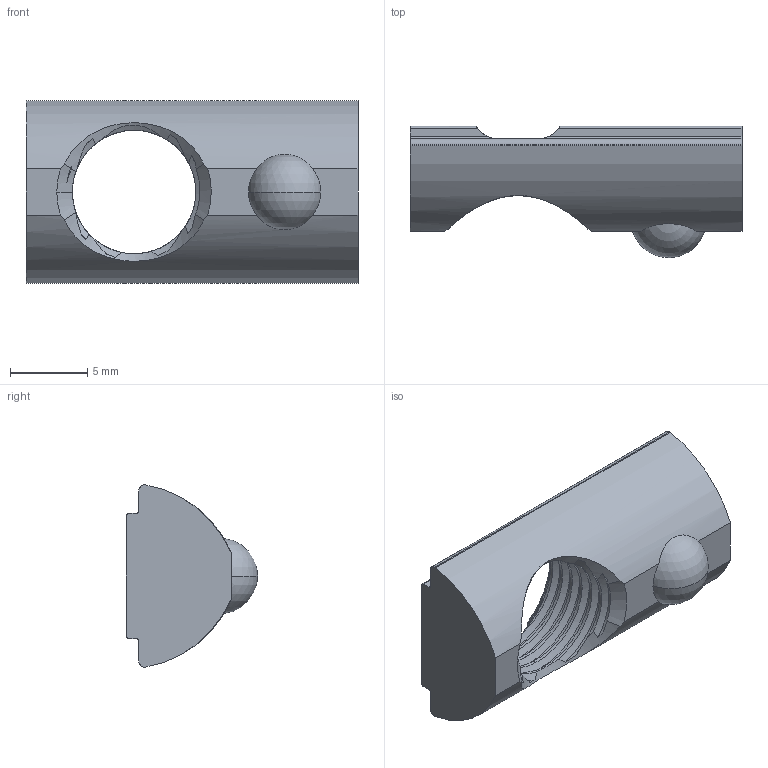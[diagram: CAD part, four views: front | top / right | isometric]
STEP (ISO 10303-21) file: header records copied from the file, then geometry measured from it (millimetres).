
FILE_DESCRIPTION (( 'STEP AP214' ), '1' );
FILE_NAME ('Spring Ball Loaded Nut - T-Slot - 30 Series - M8.STEP', '2024-10-08T00:22:53', ( '' ), ( '' ), 'SwSTEP 2.0', 'SolidWorks 2024', '' );
FILE_SCHEMA (( 'AUTOMOTIVE_DESIGN' ));
Length unit declared in the file: millimetre
Products named in the file (1): Spring Ball Loaded Nut - T-Slot - 30 Series - M8
Bounding box: 21.5 x 8.5 x 11.8 mm (x, y, z)
Volume: 970.4 mm3; surface area: 874 mm2
Topology: 1 solids, 1 shells, 68 faces, 200 edges, 132 vertices
Faces by surface type: cylinder 29, bspline 21, plane 13, cone 3, sphere 2
Entity records: 10228 total; most frequent: CARTESIAN_POINT 8694, ORIENTED_EDGE 400, DIRECTION 211, EDGE_CURVE 200, VERTEX_POINT 132, B_SPLINE_CURVE_WITH_KNOTS 94, AXIS2_PLACEMENT_3D 80, FACE_OUTER_BOUND 68
